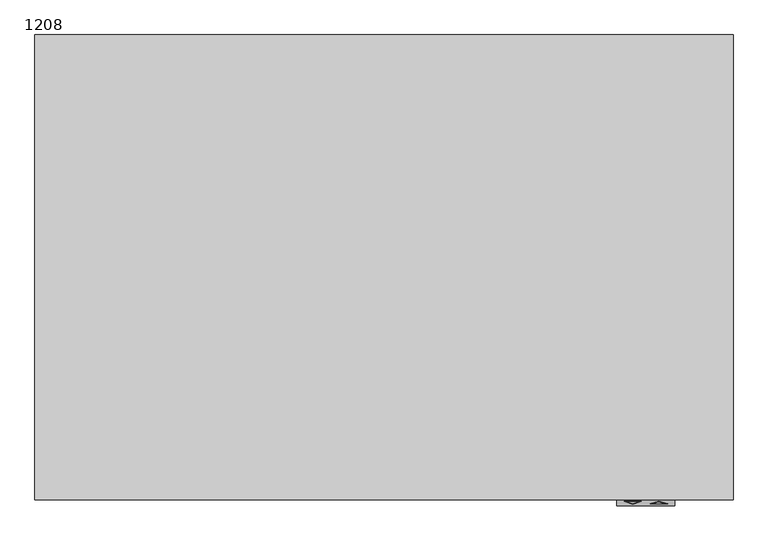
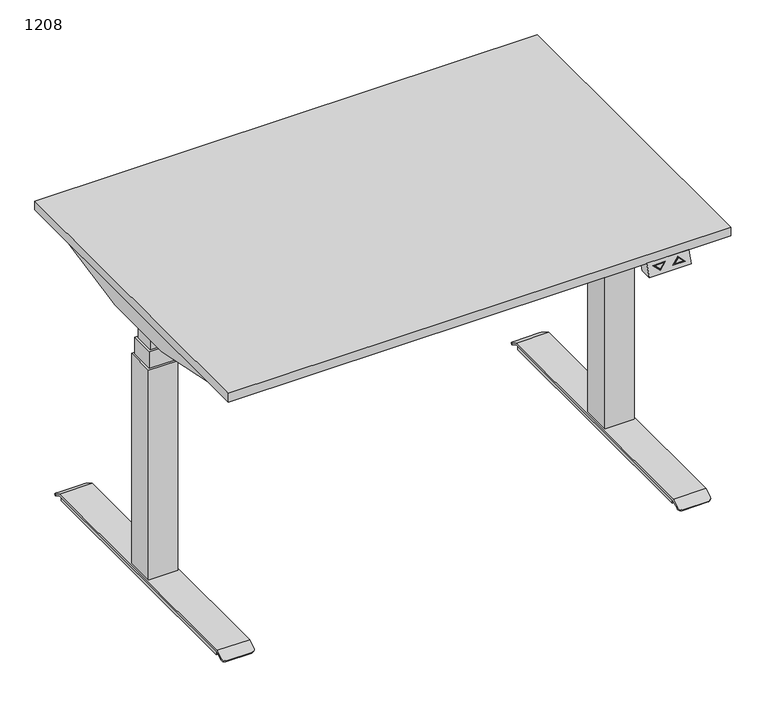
"""IFC4 building model written with IfcOpenShell, lengths in millimetres: furniture geometry, PINTA EQC : 1208."""

import ifcopenshell
import ifcopenshell.guid

model = None  # the IFC model being written
_history = None  # IfcOwnerHistory: only IFC2X3 demands one
_inside = {}  # id of a spatial element -> (the spatial element, [elements in it])
_under = {}  # id of a project, library or spatial element -> (it, [spatial elements below it])
_declared = {}  # id of a project -> (the project, [libraries it declares])
_typed = {}  # id of a type object -> (the type object, [elements of that type])
_made_of = {}  # id of a material, layer set ... -> (it, [elements and type objects made of it])


def new_model(schema):
    """Start an empty IFC model of exactly this schema.

    Asked for "IFC4X3", IfcOpenShell would pick the latest addendum, in which some entities
    have other attributes; the version numbers below select the first issue.
    IFC2X3 requires an IfcOwnerHistory on every rooted entity: one is made here for all.
    """
    global model, _history
    if schema == "IFC4X3":
        model = ifcopenshell.file(schema_version=(4, 3, 0, 0))
    else:
        model = ifcopenshell.file(schema=schema)
    _inside.clear()
    _under.clear()
    _declared.clear()
    _typed.clear()
    _made_of.clear()
    _history = None
    if model.schema == "IFC2X3":
        org = make("IfcOrganization", Name="unknown")
        user = make(
            "IfcPersonAndOrganization",
            ThePerson=make("IfcPerson", FamilyName="unknown"),
            TheOrganization=org,
        )
        app = make(
            "IfcApplication",
            ApplicationDeveloper=org,
            Version="unknown",
            ApplicationFullName="unknown",
            ApplicationIdentifier="unknown",
        )
        _history = make(
            "IfcOwnerHistory",
            OwningUser=user,
            OwningApplication=app,
            ChangeAction="ADDED",
            CreationDate=0,
        )
    return model


def make(cls, **values):
    """One entity of the class cls with the attributes given. An attribute that is None is left unset."""
    return model.create_entity(
        cls, **{name: value for name, value in values.items() if value is not None}
    )


def rooted(cls, **values):
    """An entity with a GlobalId (a new one), such as an element, a storey or a relation."""
    return make(cls, GlobalId=ifcopenshell.guid.new(), OwnerHistory=_history, **values)


def si_unit(unit_type, name, prefix=None):
    """IfcSIUnit, for example si_unit("LENGTHUNIT", "METRE", prefix="MILLI")."""
    return make("IfcSIUnit", UnitType=unit_type, Prefix=prefix, Name=name)


def assignment(units):
    """IfcUnitAssignment: the units of a project."""
    return None if units is None else make("IfcUnitAssignment", Units=units)


def point(xyz):
    """IfcCartesianPoint."""
    return None if xyz is None else make("IfcCartesianPoint", Coordinates=xyz)


def direction(xyz):
    """IfcDirection."""
    return None if xyz is None else make("IfcDirection", DirectionRatios=xyz)


def frame(location, z_axis=None, x_axis=None):
    """IfcAxis2Placement3D, a coordinate frame: its origin and axes. An axis left out is left unset."""
    return make(
        "IfcAxis2Placement3D",
        Location=point(location),
        Axis=direction(z_axis),
        RefDirection=direction(x_axis),
    )


def frame_2d(location, x_axis=None):
    """IfcAxis2Placement2D, a coordinate frame in the plane: its origin and x axis."""
    return make(
        "IfcAxis2Placement2D", Location=point(location), RefDirection=direction(x_axis)
    )


def origin():
    """The frame at (0, 0, 0) with its axes left unset."""
    return frame((0.0, 0.0, 0.0))


def origin_with_axes():
    """The frame at (0, 0, 0) with the z axis (0, 0, 1) and the x axis (1, 0, 0) written out."""
    return frame((0.0, 0.0, 0.0), z_axis=(0.0, 0.0, 1.0), x_axis=(1.0, 0.0, 0.0))


def place(relative_to, where):
    """IfcLocalPlacement: puts the frame where relative to a parent placement (None: the world)."""
    return make(
        "IfcLocalPlacement", PlacementRelTo=relative_to, RelativePlacement=where
    )


def context(
    kind, dimensions, precision=None, world=None, true_north=None, identifier=None
):
    """IfcGeometricRepresentationContext, for example the 3D "Model" context."""
    return make(
        "IfcGeometricRepresentationContext",
        ContextIdentifier=identifier,
        ContextType=kind,
        CoordinateSpaceDimension=dimensions,
        Precision=precision,
        WorldCoordinateSystem=world,
        TrueNorth=true_north,
    )


def project(units=None, contexts=None):
    """IfcProject with its units and contexts."""
    return rooted(
        "IfcProject",
        Name="project",
        RepresentationContexts=contexts,
        UnitsInContext=assignment(units),
    )


def spatial(cls, under=None, at=None, **own):
    """A site, building, storey or space (cls), placed at a placement, below another one or the project."""
    s = rooted(cls, ObjectPlacement=at, **own)
    if under is not None:
        _under.setdefault(under.id(), (under, []))[1].append(s)
    return s


def polyline(points):
    """IfcPolyline through the points."""
    return make("IfcPolyline", Points=[point(p) for p in points])


def circle_curve(where, radius):
    """IfcCircle in the frame where."""
    return make("IfcCircle", Position=where, Radius=radius)


def trimmed(basis, trim1, trim2, sense, master):
    """IfcTrimmedCurve: the piece of a basis curve between two trims."""
    return make(
        "IfcTrimmedCurve",
        BasisCurve=basis,
        Trim1=trim1,
        Trim2=trim2,
        SenseAgreement=sense,
        MasterRepresentation=master,
    )


def segment(curve, same_sense, transition):
    """IfcCompositeCurveSegment."""
    return make(
        "IfcCompositeCurveSegment",
        Transition=transition,
        SameSense=same_sense,
        ParentCurve=curve,
    )


def composite_curve(segments, self_intersect=None):
    """IfcCompositeCurve: segments joined end to end."""
    return make("IfcCompositeCurve", Segments=segments, SelfIntersect=self_intersect)


def outline(outer, holes=None, kind="AREA"):
    """IfcArbitraryClosedProfileDef: a profile drawn as a closed curve; with holes, ...WithVoids."""
    if holes is None:
        return make("IfcArbitraryClosedProfileDef", ProfileType=kind, OuterCurve=outer)
    return make(
        "IfcArbitraryProfileDefWithVoids",
        ProfileType=kind,
        OuterCurve=outer,
        InnerCurves=holes,
    )


def extrude(swept, where, along, depth):
    """IfcExtrudedAreaSolid: the profile swept, set in the frame where, extruded along a direction by depth."""
    return make(
        "IfcExtrudedAreaSolid",
        SweptArea=swept,
        Position=where,
        ExtrudedDirection=direction(along),
        Depth=depth,
    )


def faces_of(points, faces, orient=None, outer=None):
    """IfcFace entities. A face is a list of loops; a loop is a list of indices into points, from 0.

    orient and outer hold one flag for each loop. By default every Orientation is true, the
    first loop of a face is its IfcFaceOuterBound and the others are IfcFaceBound.
    """
    made = []
    for i, loops in enumerate(faces):
        bounds = []
        for j, loop in enumerate(loops):
            is_outer = j == 0 if outer is None else outer[i][j]
            bounds.append(
                make(
                    "IfcFaceOuterBound" if is_outer else "IfcFaceBound",
                    Bound=make("IfcPolyLoop", Polygon=[points[k] for k in loop]),
                    Orientation=True if orient is None else orient[i][j],
                )
            )
        made.append(make("IfcFace", Bounds=bounds))
    return made


def faceted_brep(points, faces, orient=None, outer=None, voids=None):
    """IfcFacetedBrep: a solid bounded by flat faces; with voids (closed shells), ...WithVoids."""
    shared = [point(p) for p in points]
    hull = make("IfcClosedShell", CfsFaces=faces_of(shared, faces, orient, outer))
    if voids is None:
        return make("IfcFacetedBrep", Outer=hull)
    return make(
        "IfcFacetedBrepWithVoids",
        Outer=hull,
        Voids=[
            make(cls, CfsFaces=faces_of(shared, fs, o, b)) for cls, fs, o, b in voids
        ],
    )


def shape(context_of_items, identifier, shape_type, items):
    """IfcShapeRepresentation: the items that make up one representation, for example the "Body"."""
    return make(
        "IfcShapeRepresentation",
        ContextOfItems=context_of_items,
        RepresentationIdentifier=identifier,
        RepresentationType=shape_type,
        Items=items,
    )


def source(mapping_origin, context_of_items, identifier, shape_type, items):
    """IfcRepresentationMap: a shape defined once, which mapped items show again and again."""
    return make(
        "IfcRepresentationMap",
        MappingOrigin=mapping_origin,
        MappedRepresentation=shape(context_of_items, identifier, shape_type, items),
    )


def transform(
    local_origin,
    x_axis=None,
    y_axis=None,
    z_axis=None,
    scale=None,
    scale2=None,
    scale3=None,
    uniform=True,
):
    """IfcCartesianTransformationOperator3D, or its non-uniform kind. x_axis, y_axis, z_axis: its Axis1, 2, 3."""
    if uniform:
        return make(
            "IfcCartesianTransformationOperator3D",
            Axis1=direction(x_axis),
            Axis2=direction(y_axis),
            LocalOrigin=point(local_origin),
            Scale=scale,
            Axis3=direction(z_axis),
        )
    return make(
        "IfcCartesianTransformationOperator3DnonUniform",
        Axis1=direction(x_axis),
        Axis2=direction(y_axis),
        LocalOrigin=point(local_origin),
        Scale=scale,
        Axis3=direction(z_axis),
        Scale2=scale2,
        Scale3=scale3,
    )


def mapped(mapping_source, mapping_target):
    """IfcMappedItem: shows the shape of a source again, moved by a transform."""
    return make(
        "IfcMappedItem", MappingSource=mapping_source, MappingTarget=mapping_target
    )


def made_of(thing, what):
    """Note that an element or type object is made of a material, layer set ...; save() writes the relation."""
    if what is not None:
        _made_of.setdefault(what.id(), (what, []))[1].append(thing)
    return thing


def element(
    cls,
    number,
    at=None,
    inside=None,
    cuts=None,
    type_object=None,
    material=None,
    context=None,
    identifier="Body",
    shape_type=None,
    held_by="IfcProductDefinitionShape",
    body=None,
    shapes=None,
    **own,
):
    """One element of the class cls, such as IfcWall. Its Tag is "e" and its number.

    at: its placement. inside: the storey or other place that contains it. cuts: it is an
    opening in that element (IfcRelVoidsElement). A single representation is given by context,
    identifier, shape_type and body (its items); several are given by shapes. held_by: the class
    of the entity that holds the representations. save() writes the other relations.
    """
    e = rooted(cls, Tag="e%d" % number, ObjectPlacement=at, **own)
    if body is not None:
        shapes = [shape(context, identifier, shape_type, body)]
    if shapes is not None:
        e.Representation = make(held_by, Representations=shapes)
    if inside is not None:
        _inside.setdefault(inside.id(), (inside, []))[1].append(e)
    if cuts is not None:
        rooted(
            "IfcRelVoidsElement", RelatingBuildingElement=cuts, RelatedOpeningElement=e
        )
    if type_object is not None:
        _typed.setdefault(type_object.id(), (type_object, []))[1].append(e)
    return made_of(e, material)


def aggregate(whole, parts):
    """IfcRelAggregates: a whole, such as a stair, and the parts it consists of."""
    return rooted("IfcRelAggregates", RelatingObject=whole, RelatedObjects=parts)


def save(model, path):
    """Write the relations noted so far, then the file.

    IfcRelAggregates (storeys below a building ...), IfcRelContainedInSpatialStructure (elements
    in a storey), IfcRelDefinesByType, IfcRelAssociatesMaterial and IfcRelDeclares: one each for
    every whole, place, type object, material and project.
    """
    for whole, parts in _under.values():
        aggregate(whole, parts)
    for where, things in _inside.values():
        rooted(
            "IfcRelContainedInSpatialStructure",
            RelatedElements=things,
            RelatingStructure=where,
        )
    for kind, things in _typed.values():
        rooted("IfcRelDefinesByType", RelatedObjects=things, RelatingType=kind)
    for what, things in _made_of.values():
        rooted("IfcRelAssociatesMaterial", RelatedObjects=things, RelatingMaterial=what)
    for by, libraries in _declared.values():
        rooted("IfcRelDeclares", RelatingContext=by, RelatedDefinitions=libraries)
    model.write(path)


def plane_surface(at):
    """IfcPlane: the flat surface through the origin of the frame at, square to its z axis."""
    return make("IfcPlane", Position=at)


def cylinder_surface(at, radius):
    """IfcCylindricalSurface: all points at the distance radius from the z axis of the frame at."""
    return make("IfcCylindricalSurface", Position=at, Radius=radius)


def advanced_brep(points, edges, surfaces, faces):
    """IfcAdvancedBrep: a solid bounded by faces that lie on surfaces and meet in shared edges.

    An edge is (start, end): straight between two places in points (the first is 0);
    or (start, end, curve); or (start, end, curve, False) where it runs against its curve.
    A face is (place in surfaces, loops), or (place, loops, False) where it looks against
    its surface's normal. A loop lists edges by number (the first is 1), with a minus sign
    where the edge is run from its end to its start. The first loop is the outer one.
    """
    corners = [point(p) for p in points]
    vertices = [make("IfcVertexPoint", VertexGeometry=c) for c in corners]
    made = []
    for start, end, *more in edges:
        made.append(
            make(
                "IfcEdgeCurve",
                EdgeStart=vertices[start],
                EdgeEnd=vertices[end],
                EdgeGeometry=more[0] if more else make("IfcPolyline", Points=[corners[start], corners[end]]),
                SameSense=more[1] if len(more) > 1 else True,
            )
        )
    hull = []
    for where, loops, *sense in faces:
        bounds = []
        for j, loop in enumerate(loops):
            ring = [make("IfcOrientedEdge", EdgeElement=made[abs(k) - 1], Orientation=k > 0) for k in loop]
            bounds.append(
                make(
                    "IfcFaceOuterBound" if j == 0 else "IfcFaceBound",
                    Bound=make("IfcEdgeLoop", EdgeList=ring),
                    Orientation=True,
                )
            )
        hull.append(make("IfcAdvancedFace", Bounds=bounds, FaceSurface=surfaces[where], SameSense=sense[0] if sense else True))
    return make("IfcAdvancedBrep", Outer=make("IfcClosedShell", CfsFaces=hull))


def furniture_1208_21994134(model_context):
    return source(origin(), model_context, "Body", "SolidModel", [
        faceted_brep([(400.0, -810.0, 668.0), (400.0, -780.0, 668.0), (500.0, -780.0, 668.0), (500.0, -810.0, 668.0), (400.0, -800.0, 698.0), (500.0, -800.0, 698.0), (500.0, -770.0, 698.0), (400.0, -770.0, 698.0), (412.5, -802.6491106, 690.0526681), (442.5, -802.6491106, 690.0526681), (427.5, -807.3925271, 675.8224186), (487.5, -806.9174824, 677.2475529), (457.5, -806.9174824, 677.2475529), (472.5, -802.1740659, 691.4778023), (427.5, -806.4980999, 678.5057002), (437.6715729, -803.2815662, 688.1553015), (417.3284271, -803.2815662, 688.1553015), (482.6715729, -806.2850268, 679.1449195), (472.5, -803.0684931, 688.7945208), (462.3284271, -806.2850268, 679.1449195), (442.5, -801.7004273, 689.7364403), (412.5, -801.7004273, 689.7364403), (427.5, -806.4438438, 675.5061908), (437.6715729, -802.3328829, 687.8390737), (427.5, -805.5494166, 678.1894724), (417.3284271, -802.3328829, 687.8390737), (457.5, -805.9687991, 676.9313251), (487.5, -805.9687991, 676.9313251), (472.5, -801.2253826, 691.1615746), (472.5, -802.1198098, 688.478293), (482.6715729, -805.3363436, 678.8286917), (462.3284271, -805.3363436, 678.8286917)], [[[0, 1, 2, 3]], [[4, 5, 6, 7]], [[1, 0, 4, 7]], [[3, 2, 6, 5]], [[0, 3, 5, 4], [8, 9, 10], [11, 12, 13]], [[14, 15, 16]], [[17, 18, 19]], [[2, 1, 7, 6]], [[20, 21, 22], [23, 24, 25]], [[26, 27, 28], [29, 30, 31]], [[21, 20, 9, 8]], [[22, 21, 8, 10]], [[20, 22, 10, 9]], [[27, 26, 12, 11]], [[28, 27, 11, 13]], [[26, 28, 13, 12]], [[24, 23, 15, 14]], [[25, 24, 14, 16]], [[23, 25, 16, 15]], [[30, 29, 18, 17]], [[31, 30, 17, 19]], [[29, 31, 19, 18]]]),
        extrude(outline(polyline([(-580.0, -319.7732113), (580.0, -319.7733158), (580.0, -339.7733158), (-580.0, -339.7732113), (-580.0, -319.7732113)])), frame((0.0, 0.0, 658.0), z_axis=(0.0, 0.0, 1.0), x_axis=(1.0, 0.0, 0.0)), (0.0, 0.0, 1.0), 40.0),
        extrude(outline(polyline([(-580.0, -459.7732114), (580.0, -459.7733158), (580.0, -479.7733158), (-580.0, -479.7732114), (-580.0, -459.7732114)])), frame((0.0, 0.0, 658.0), z_axis=(0.0, 0.0, 1.0), x_axis=(1.0, 0.0, 0.0)), (0.0, 0.0, 1.0), 40.0),
        extrude(outline(polyline([(-600.0, -800.0), (-600.0, 0.0), (600.0, 0.0), (600.0, -800.0), (-600.0, -800.0)])), frame((0.0, 0.0, 698.0), z_axis=(0.0, 0.0, 1.0), x_axis=(1.0, 0.0, 0.0)), (0.0, 0.0, 1.0), 22.0),
        advanced_brep(
        [(506.9772339, -720.0, 6.0), (506.9772339, -720.0, 16.0), (506.9772339, -80.0, 16.0), (506.9772339, -80.0, 6.0), (583.0227661, -80.0, 16.0), (583.0227661, -80.0, 6.0), (583.0227661, -720.0, 16.0), (583.0227661, -720.0, 6.0), (506.0, -75.0, 20.0), (506.0, -56.9800481, 9.908827), (506.0, -58.9344616, 6.4188029), (506.0, -76.0437422, 16.0), (506.0, -723.9562578, 16.0), (506.0, -741.0655384, 6.4188029), (506.0, -743.0199519, 9.908827), (506.0, -725.0, 20.0), (584.0, -76.0437422, 16.0), (584.0, -58.9344616, 6.4188029), (584.0, -56.9800481, 9.908827), (584.0, -75.0, 20.0), (584.0, -725.0, 20.0), (584.0, -743.0199519, 9.908827), (584.0, -741.0655384, 6.4188029), (584.0, -723.9562578, 16.0), (514.0, -750.0, 6.0), (576.0, -750.0, 6.0), (514.0, -748.0455865, 2.5099759), (576.0, -748.0455865, 2.5099759), (514.0, -51.9544135, 2.5099759), (576.0, -51.9544135, 2.5099759), (514.0, -50.0, 6.0), (576.0, -50.0, 6.0)],
        [
            (0, 1),
            (1, 2),
            (2, 3),
            (3, 0),
            (2, 4),
            (4, 5),
            (5, 3),
            (4, 6),
            (6, 7),
            (7, 5),
            (6, 1),
            (0, 7),
            (8, 9),
            (9, 10),
            (10, 11),
            (11, 12),
            (12, 13),
            (13, 14),
            (14, 15),
            (15, 8),
            (16, 17),
            (17, 18),
            (18, 19),
            (19, 20),
            (20, 21),
            (21, 22),
            (22, 23),
            (23, 16),
            (15, 20),
            (19, 8),
            (11, 16),
            (23, 12),
            (14, 24, circle_curve(frame((514.0, -743.0199519, 9.908827), z_axis=(0.0, -0.4886033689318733, 0.8725060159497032), x_axis=(0.0, 0.8725060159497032, 0.4886033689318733)), 8.0)),
            (24, 25),
            (25, 21, circle_curve(frame((576.0, -743.0199519, 9.908827), z_axis=(0.0, -0.4886033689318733, 0.8725060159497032), x_axis=(0.0, 0.8725060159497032, 0.4886033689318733)), 8.0)),
            (24, 26),
            (26, 27),
            (27, 25),
            (22, 27, circle_curve(frame((576.0, -741.0655384, 6.4188029), z_axis=(0.0, 0.4886033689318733, -0.8725060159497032), x_axis=(0.0, 0.8725060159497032, 0.4886033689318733)), 8.0)),
            (26, 13, circle_curve(frame((514.0, -741.0655384, 6.4188029), z_axis=(0.0, 0.4886033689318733, -0.8725060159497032), x_axis=(0.0, 0.8725060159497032, 0.4886033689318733)), 8.0)),
            (10, 28, circle_curve(frame((514.0, -58.9344616, 6.4188029), z_axis=(0.0, -0.4886033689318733, -0.8725060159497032), x_axis=(0.0, -0.8725060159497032, 0.4886033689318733)), 8.0)),
            (28, 29),
            (29, 17, circle_curve(frame((576.0, -58.9344616, 6.4188029), z_axis=(0.0, -0.4886033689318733, -0.8725060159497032), x_axis=(0.0, -0.8725060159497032, 0.4886033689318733)), 8.0)),
            (28, 30),
            (30, 31),
            (31, 29),
            (18, 31, circle_curve(frame((576.0, -56.9800481, 9.908827), z_axis=(0.0, 0.4886033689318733, 0.8725060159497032), x_axis=(0.0, -0.8725060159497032, 0.4886033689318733)), 8.0)),
            (30, 9, circle_curve(frame((514.0, -56.9800481, 9.908827), z_axis=(0.0, 0.4886033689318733, 0.8725060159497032), x_axis=(0.0, -0.8725060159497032, 0.4886033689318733)), 8.0)),
        ],
        [
            plane_surface(frame((506.9772339, -720.0, 16.0), z_axis=(-1.0, 0.0, 0.0), x_axis=(0.0, 0.0, -1.0))),
            plane_surface(frame((506.9772339, -80.0, 16.0), z_axis=(0.0, 1.0, 0.0), x_axis=(0.0, 0.0, -1.0))),
            plane_surface(frame((583.0227661, -80.0, 16.0), z_axis=(1.0, 0.0, 0.0), x_axis=(0.0, 0.0, -1.0))),
            plane_surface(frame((583.0227661, -720.0, 16.0), z_axis=(0.0, -1.0, 0.0), x_axis=(0.0, 0.0, -1.0))),
            plane_surface(frame((506.9772339, -723.4188232, 6.0), z_axis=(0.0, 0.0, -1.0), x_axis=(0.0, -1.0, 0.0))),
            plane_surface(frame((506.0, -400.0, 20.0), z_axis=(-1.0, 0.0, 0.0), x_axis=(0.0, -1.0, 0.0))),
            plane_surface(frame((584.0, -400.0, 20.0), z_axis=(1.0, 0.0, 0.0), x_axis=(0.0, 1.0, 0.0))),
            plane_surface(frame((506.0, -75.0, 20.0), z_axis=(0.0, 0.0, 1.0), x_axis=(1.0, 0.0, 0.0))),
            plane_surface(frame((506.0, -723.9562578, 16.0), z_axis=(0.0, 0.0, -1.0), x_axis=(1.0, 0.0, 0.0))),
            plane_surface(frame((506.0, -725.0, 20.0), z_axis=(0.0, -0.4886033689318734, 0.8725060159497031), x_axis=(1.0, 0.0, 0.0))),
            plane_surface(frame((506.0, -750.0, 6.0), z_axis=(0.0, -0.872506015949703, -0.4886033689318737), x_axis=(1.0, 0.0, 0.0))),
            plane_surface(frame((506.0, -748.0455865, 2.5099759), z_axis=(0.0, 0.4886033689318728, -0.8725060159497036), x_axis=(1.0, 0.0, 0.0))),
            plane_surface(frame((506.0, -76.0437422, 16.0), z_axis=(0.0, -0.4886033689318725, -0.8725060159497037), x_axis=(1.0, 0.0, 0.0))),
            plane_surface(frame((506.0, -51.9544135, 2.5099759), z_axis=(0.0, 0.8725060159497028, -0.48860336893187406), x_axis=(1.0, 0.0, 0.0))),
            plane_surface(frame((506.0, -50.0, 6.0), z_axis=(0.0, 0.48860336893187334, 0.8725060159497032), x_axis=(1.0, 0.0, 0.0))),
            cylinder_surface(frame((514.0, -743.0199519, 9.908827), z_axis=(0.0, -0.4886033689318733, 0.8725060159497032), x_axis=(0.0, 0.8725060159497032, 0.4886033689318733)), 8.0),
            cylinder_surface(frame((576.0, -743.0199519, 9.908827), z_axis=(0.0, -0.4886033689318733, 0.8725060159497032), x_axis=(0.0, 0.8725060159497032, 0.4886033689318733)), 8.0),
            cylinder_surface(frame((514.0, -56.9800481, 9.908827), z_axis=(0.0, 0.4886033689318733, 0.8725060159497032), x_axis=(0.0, -0.8725060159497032, 0.4886033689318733)), 8.0),
            cylinder_surface(frame((576.0, -56.9800481, 9.908827), z_axis=(0.0, 0.4886033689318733, 0.8725060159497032), x_axis=(0.0, -0.8725060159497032, 0.4886033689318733)), 8.0),
        ],
        [
            (0, [[1, 2, 3, 4]]),
            (1, [[-3, 5, 6, 7]]),
            (2, [[-6, 8, 9, 10]]),
            (3, [[-9, 11, -1, 12]]),
            (4, [[-4, -7, -10, -12]]),
            (5, [[13, 14, 15, 16, 17, 18, 19, 20]]),
            (6, [[21, 22, 23, 24, 25, 26, 27, 28]]),
            (7, [[29, -24, 30, -20]]),
            (8, [[31, -28, 32, -16], [-11, -8, -5, -2]]),
            (9, [[-19, 33, 34, 35, -25, -29]]),
            (10, [[36, 37, 38, -34]]),
            (11, [[-27, 39, -37, 40, -17, -32]]),
            (12, [[-15, 41, 42, 43, -21, -31]]),
            (13, [[44, 45, 46, -42]]),
            (14, [[-23, 47, -45, 48, -13, -30]]),
            (15, [[-40, -36, -33, -18]]),
            (16, [[-35, -38, -39, -26]]),
            (17, [[-48, -44, -41, -14]]),
            (18, [[-43, -46, -47, -22]]),
        ],
    ),
        faceted_brep([(379.4551307, -460.0, 698.0), (562.9996948, -460.0, 698.0), (562.9996948, -700.0, 698.0), (579.4551307, -700.0, 698.0), (583.0, -700.0, 698.0), (583.0, -100.0, 698.0), (579.4551307, -100.0, 698.0), (562.9996948, -100.0, 698.0), (562.9996948, -340.0, 698.0), (379.4551307, -340.0, 698.0), (379.4551307, -460.0, 635.2327881), (379.4551307, -340.0, 635.2327881), (579.4551307, -340.0, 635.2327881), (579.4551307, -303.8252348, 635.2327881), (583.0, -303.8252348, 635.2327881), (583.0, -496.1747652, 635.2327881), (579.4551307, -496.1747652, 635.2327881), (579.4551307, -460.0, 635.2327881), (562.9996948, -340.0, 694.9093018), (579.4551307, -340.0, 694.9093018), (579.4551307, -460.0, 694.9093018), (562.9996948, -460.0, 694.9093018), (579.4551307, -700.0, 694.9093018), (562.9996948, -700.0, 694.9093018), (579.4551307, -100.0, 694.9093018), (562.9996948, -100.0, 694.9093018), (579.4551307, -101.1249222, 694.9093018), (579.4551307, -698.8750778, 694.9093018), (579.4551307, -108.5505036, 674.5076845), (579.4551307, -691.4494964, 674.5076845), (583.0, -108.5505036, 674.5076845), (583.0, -691.4494964, 674.5076845)], [[[0, 1, 2, 3, 4, 5, 6, 7, 8, 9]], [[10, 11, 12, 13, 14, 15, 16, 17]], [[9, 11, 10, 0]], [[11, 9, 8, 18, 19, 12]], [[17, 20, 21, 1, 0, 10]], [[22, 3, 2, 23]], [[24, 25, 7, 6]], [[24, 26, 19, 18, 25]], [[23, 21, 20, 27, 22]], [[2, 1, 21, 23]], [[25, 18, 8, 7]], [[13, 12, 19, 26, 28]], [[29, 27, 20, 17, 16]], [[15, 14, 30, 5, 4, 31]], [[16, 15, 31, 29]], [[22, 27, 3]], [[6, 26, 24]], [[4, 3, 27, 29, 31]], [[28, 30, 14, 13]], [[30, 28, 26, 6, 5]]]),
        extrude(outline(composite_curve([segment(trimmed(circle_curve(frame_2d((545.0, -705.0)), 25.0), [point((570.0, -705.0))], [point((520.0, -705.0))], False, "CARTESIAN"), True, "CONTINUOUS"), segment(trimmed(circle_curve(frame_2d((545.0, -705.0)), 25.0), [point((520.0, -705.0))], [point((570.0, -705.0))], False, "CARTESIAN"), True, "CONTINUOUS")], self_intersect=False)), origin_with_axes(), (0.0, 0.0, 1.0), 6.0),
        extrude(outline(composite_curve([segment(trimmed(circle_curve(frame_2d((545.0, -95.0)), 25.0), [point((570.0, -95.0))], [point((520.0, -95.0))], False, "CARTESIAN"), True, "CONTINUOUS"), segment(trimmed(circle_curve(frame_2d((545.0, -95.0)), 25.0), [point((520.0, -95.0))], [point((570.0, -95.0))], False, "CARTESIAN"), True, "CONTINUOUS")], self_intersect=False)), origin_with_axes(), (0.0, 0.0, 1.0), 6.0),
        faceted_brep([(510.0, -365.0, 550.0), (510.0, -434.9621325, 550.0), (580.0, -434.9621325, 550.0), (580.0, -365.0, 550.0), (575.0, -370.0, 550.0), (575.0, -429.9621325, 550.0), (515.0, -429.9621325, 550.0), (515.0, -370.0, 550.0), (510.0, -365.0, 20.0), (580.0, -365.0, 20.0), (580.0, -434.9621325, 20.0), (510.0, -434.9621325, 20.0), (515.0, -370.0, 592.616394), (515.0, -429.9621325, 592.616394), (575.0, -429.9621325, 592.616394), (575.0, -370.0, 592.616394), (570.0, -375.0, 592.616394), (570.0, -424.9621325, 592.616394), (520.0, -424.9621325, 592.616394), (520.0, -375.0, 592.616394), (520.0, -375.0, 635.2327881), (520.0, -424.9621325, 635.2327881), (570.0, -424.9621325, 635.2327881), (570.0, -375.0, 635.2327881)], [[[0, 1, 2, 3], [4, 5, 6, 7]], [[8, 9, 10, 11]], [[3, 9, 8, 0]], [[2, 10, 9, 3]], [[1, 11, 10, 2]], [[0, 8, 11, 1]], [[12, 13, 14, 15], [16, 17, 18, 19]], [[15, 4, 7, 12]], [[14, 5, 4, 15]], [[13, 6, 5, 14]], [[12, 7, 6, 13]], [[20, 21, 22, 23]], [[23, 16, 19, 20]], [[22, 17, 16, 23]], [[21, 18, 17, 22]], [[20, 19, 18, 21]]]),
        advanced_brep(
        [(-506.9772339, -720.0, 6.0), (-506.9772339, -80.0, 6.0), (-506.9772339, -80.0, 16.0), (-506.9772339, -720.0, 16.0), (-583.0227661, -80.0, 6.0), (-583.0227661, -80.0, 16.0), (-583.0227661, -720.0, 6.0), (-583.0227661, -720.0, 16.0), (-506.0, -75.0, 20.0), (-506.0, -725.0, 20.0), (-506.0, -743.0199519, 9.908827), (-506.0, -741.0655384, 6.4188029), (-506.0, -723.9562578, 16.0), (-506.0, -76.0437422, 16.0), (-506.0, -58.9344616, 6.4188029), (-506.0, -56.9800481, 9.908827), (-584.0, -76.0437422, 16.0), (-584.0, -723.9562578, 16.0), (-584.0, -741.0655384, 6.4188029), (-584.0, -743.0199519, 9.908827), (-584.0, -725.0, 20.0), (-584.0, -75.0, 20.0), (-584.0, -56.9800481, 9.908827), (-584.0, -58.9344616, 6.4188029), (-576.0, -750.0, 6.0), (-514.0, -750.0, 6.0), (-576.0, -748.0455865, 2.5099759), (-514.0, -748.0455865, 2.5099759), (-576.0, -51.9544135, 2.5099759), (-514.0, -51.9544135, 2.5099759), (-576.0, -50.0, 6.0), (-514.0, -50.0, 6.0)],
        [
            (0, 1),
            (1, 2),
            (2, 3),
            (3, 0),
            (1, 4),
            (4, 5),
            (5, 2),
            (4, 6),
            (6, 7),
            (7, 5),
            (6, 0),
            (3, 7),
            (8, 9),
            (9, 10),
            (10, 11),
            (11, 12),
            (12, 13),
            (13, 14),
            (14, 15),
            (15, 8),
            (16, 17),
            (17, 18),
            (18, 19),
            (19, 20),
            (20, 21),
            (21, 22),
            (22, 23),
            (23, 16),
            (8, 21),
            (20, 9),
            (12, 17),
            (16, 13),
            (19, 24, circle_curve(frame((-576.0, -743.0199519, 9.908827), z_axis=(0.0, -0.4886033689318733, 0.8725060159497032), x_axis=(0.0, 0.8725060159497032, 0.4886033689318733)), 8.0)),
            (24, 25),
            (25, 10, circle_curve(frame((-514.0, -743.0199519, 9.908827), z_axis=(0.0, -0.4886033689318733, 0.8725060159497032), x_axis=(0.0, 0.8725060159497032, 0.4886033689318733)), 8.0)),
            (24, 26),
            (26, 27),
            (27, 25),
            (11, 27, circle_curve(frame((-514.0, -741.0655384, 6.4188029), z_axis=(0.0, 0.4886033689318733, -0.8725060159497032), x_axis=(0.0, 0.8725060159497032, 0.4886033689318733)), 8.0)),
            (26, 18, circle_curve(frame((-576.0, -741.0655384, 6.4188029), z_axis=(0.0, 0.4886033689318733, -0.8725060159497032), x_axis=(0.0, 0.8725060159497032, 0.4886033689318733)), 8.0)),
            (23, 28, circle_curve(frame((-576.0, -58.9344616, 6.4188029), z_axis=(0.0, -0.4886033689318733, -0.8725060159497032), x_axis=(0.0, -0.8725060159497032, 0.4886033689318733)), 8.0)),
            (28, 29),
            (29, 14, circle_curve(frame((-514.0, -58.9344616, 6.4188029), z_axis=(0.0, -0.4886033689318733, -0.8725060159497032), x_axis=(0.0, -0.8725060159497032, 0.4886033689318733)), 8.0)),
            (28, 30),
            (30, 31),
            (31, 29),
            (15, 31, circle_curve(frame((-514.0, -56.9800481, 9.908827), z_axis=(0.0, 0.4886033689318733, 0.8725060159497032), x_axis=(0.0, -0.8725060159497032, 0.4886033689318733)), 8.0)),
            (30, 22, circle_curve(frame((-576.0, -56.9800481, 9.908827), z_axis=(0.0, 0.4886033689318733, 0.8725060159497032), x_axis=(0.0, -0.8725060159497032, 0.4886033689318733)), 8.0)),
        ],
        [
            plane_surface(frame((-506.9772339, -720.0, 16.0), z_axis=(1.0, 0.0, 0.0), x_axis=(0.0, 0.0, -1.0))),
            plane_surface(frame((-506.9772339, -80.0, 16.0), z_axis=(0.0, 1.0, 0.0), x_axis=(0.0, 0.0, -1.0))),
            plane_surface(frame((-583.0227661, -80.0, 16.0), z_axis=(-1.0, 0.0, 0.0), x_axis=(0.0, 0.0, -1.0))),
            plane_surface(frame((-583.0227661, -720.0, 16.0), z_axis=(0.0, -1.0, 0.0), x_axis=(0.0, 0.0, -1.0))),
            plane_surface(frame((-506.9772339, -723.4188232, 6.0), z_axis=(0.0, 0.0, -1.0), x_axis=(0.0, -1.0, 0.0))),
            plane_surface(frame((-506.0, -400.0, 20.0), z_axis=(1.0, 0.0, 0.0), x_axis=(0.0, -1.0, 0.0))),
            plane_surface(frame((-584.0, -400.0, 20.0), z_axis=(-1.0, 0.0, 0.0), x_axis=(0.0, 1.0, 0.0))),
            plane_surface(frame((-506.0, -75.0, 20.0), z_axis=(0.0, 0.0, 1.0), x_axis=(-1.0, 0.0, 0.0))),
            plane_surface(frame((-506.0, -723.9562578, 16.0), z_axis=(0.0, 0.0, -1.0), x_axis=(-1.0, 0.0, 0.0))),
            plane_surface(frame((-506.0, -725.0, 20.0), z_axis=(0.0, -0.4886033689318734, 0.8725060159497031), x_axis=(-1.0, 0.0, 0.0))),
            plane_surface(frame((-506.0, -750.0, 6.0), z_axis=(0.0, -0.872506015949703, -0.4886033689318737), x_axis=(-1.0, 0.0, 0.0))),
            plane_surface(frame((-506.0, -748.0455865, 2.5099759), z_axis=(0.0, 0.4886033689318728, -0.8725060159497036), x_axis=(-1.0, 0.0, 0.0))),
            plane_surface(frame((-506.0, -76.0437422, 16.0), z_axis=(0.0, -0.4886033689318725, -0.8725060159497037), x_axis=(-1.0, 0.0, 0.0))),
            plane_surface(frame((-506.0, -51.9544135, 2.5099759), z_axis=(0.0, 0.8725060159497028, -0.48860336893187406), x_axis=(-1.0, 0.0, 0.0))),
            plane_surface(frame((-506.0, -50.0, 6.0), z_axis=(0.0, 0.48860336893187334, 0.8725060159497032), x_axis=(-1.0, 0.0, 0.0))),
            cylinder_surface(frame((-514.0, -743.0199519, 9.908827), z_axis=(0.0, -0.4886033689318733, 0.8725060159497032), x_axis=(0.0, 0.8725060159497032, 0.4886033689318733)), 8.0),
            cylinder_surface(frame((-576.0, -743.0199519, 9.908827), z_axis=(0.0, -0.4886033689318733, 0.8725060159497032), x_axis=(0.0, 0.8725060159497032, 0.4886033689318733)), 8.0),
            cylinder_surface(frame((-514.0, -56.9800481, 9.908827), z_axis=(0.0, 0.4886033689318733, 0.8725060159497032), x_axis=(0.0, -0.8725060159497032, 0.4886033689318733)), 8.0),
            cylinder_surface(frame((-576.0, -56.9800481, 9.908827), z_axis=(0.0, 0.4886033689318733, 0.8725060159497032), x_axis=(0.0, -0.8725060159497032, 0.4886033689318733)), 8.0),
        ],
        [
            (0, [[1, 2, 3, 4]]),
            (1, [[5, 6, 7, -2]]),
            (2, [[8, 9, 10, -6]]),
            (3, [[11, -4, 12, -9]]),
            (4, [[-11, -8, -5, -1]]),
            (5, [[13, 14, 15, 16, 17, 18, 19, 20]]),
            (6, [[21, 22, 23, 24, 25, 26, 27, 28]]),
            (7, [[-13, 29, -25, 30]]),
            (8, [[-17, 31, -21, 32], [-3, -7, -10, -12]]),
            (9, [[-30, -24, 33, 34, 35, -14]]),
            (10, [[-34, 36, 37, 38]]),
            (11, [[-31, -16, 39, -37, 40, -22]]),
            (12, [[-32, -28, 41, 42, 43, -18]]),
            (13, [[-42, 44, 45, 46]]),
            (14, [[-29, -20, 47, -45, 48, -26]]),
            (15, [[-15, -35, -38, -39]]),
            (16, [[-23, -40, -36, -33]]),
            (17, [[-19, -43, -46, -47]]),
            (18, [[-27, -48, -44, -41]]),
        ],
    ),
        faceted_brep([(-379.4551307, -460.0, 698.0), (-379.4551307, -340.0, 698.0), (-562.9996948, -340.0, 698.0), (-562.9996948, -100.0, 698.0), (-579.4551307, -100.0, 698.0), (-583.0, -100.0, 698.0), (-583.0, -700.0, 698.0), (-579.4551307, -700.0, 698.0), (-562.9996948, -700.0, 698.0), (-562.9996948, -460.0, 698.0), (-379.4551307, -460.0, 635.2327881), (-579.4551307, -460.0, 635.2327881), (-579.4551307, -496.1747652, 635.2327881), (-583.0, -496.1747652, 635.2327881), (-583.0, -303.8252348, 635.2327881), (-579.4551307, -303.8252348, 635.2327881), (-579.4551307, -340.0, 635.2327881), (-379.4551307, -340.0, 635.2327881), (-579.4551307, -340.0, 694.9093018), (-562.9996948, -340.0, 694.9093018), (-562.9996948, -460.0, 694.9093018), (-579.4551307, -460.0, 694.9093018), (-579.4551307, -700.0, 694.9093018), (-562.9996948, -700.0, 694.9093018), (-579.4551307, -100.0, 694.9093018), (-562.9996948, -100.0, 694.9093018), (-579.4551307, -698.8750778, 694.9093018), (-579.4551307, -101.1249222, 694.9093018), (-579.4551307, -691.4494964, 674.5076845), (-579.4551307, -108.5505036, 674.5076845), (-583.0, -691.4494964, 674.5076845), (-583.0, -108.5505036, 674.5076845)], [[[0, 1, 2, 3, 4, 5, 6, 7, 8, 9]], [[10, 11, 12, 13, 14, 15, 16, 17]], [[1, 0, 10, 17]], [[17, 16, 18, 19, 2, 1]], [[11, 10, 0, 9, 20, 21]], [[22, 23, 8, 7]], [[24, 4, 3, 25]], [[23, 22, 26, 21, 20]], [[24, 25, 19, 18, 27]], [[8, 23, 20, 9]], [[25, 3, 2, 19]], [[28, 12, 11, 21, 26]], [[15, 29, 27, 18, 16]], [[13, 30, 6, 5, 31, 14]], [[12, 28, 30, 13]], [[22, 7, 26]], [[4, 24, 27]], [[6, 30, 28, 26, 7]], [[29, 15, 14, 31]], [[31, 5, 4, 27, 29]]]),
        extrude(outline(composite_curve([segment(trimmed(circle_curve(frame_2d((-545.0, -705.0)), 25.0), [point((-570.0, -705.0))], [point((-520.0, -705.0))], False, "CARTESIAN"), True, "CONTINUOUS"), segment(trimmed(circle_curve(frame_2d((-545.0, -705.0)), 25.0), [point((-520.0, -705.0))], [point((-570.0, -705.0))], False, "CARTESIAN"), True, "CONTINUOUS")], self_intersect=False)), origin_with_axes(), (0.0, 0.0, 1.0), 6.0),
        extrude(outline(composite_curve([segment(trimmed(circle_curve(frame_2d((-545.0, -95.0)), 25.0), [point((-570.0, -95.0))], [point((-520.0, -95.0))], False, "CARTESIAN"), True, "CONTINUOUS"), segment(trimmed(circle_curve(frame_2d((-545.0, -95.0)), 25.0), [point((-520.0, -95.0))], [point((-570.0, -95.0))], False, "CARTESIAN"), True, "CONTINUOUS")], self_intersect=False)), origin_with_axes(), (0.0, 0.0, 1.0), 6.0),
        faceted_brep([(-510.0, -365.0, 550.0), (-580.0, -365.0, 550.0), (-580.0, -434.9621325, 550.0), (-510.0, -434.9621325, 550.0), (-575.0, -370.0, 550.0), (-515.0, -370.0, 550.0), (-515.0, -429.9621325, 550.0), (-575.0, -429.9621325, 550.0), (-510.0, -365.0, 20.0), (-510.0, -434.9621325, 20.0), (-580.0, -434.9621325, 20.0), (-580.0, -365.0, 20.0), (-515.0, -370.0, 592.616394), (-575.0, -370.0, 592.616394), (-575.0, -429.9621325, 592.616394), (-515.0, -429.9621325, 592.616394), (-570.0, -375.0, 592.616394), (-520.0, -375.0, 592.616394), (-520.0, -424.9621325, 592.616394), (-570.0, -424.9621325, 592.616394), (-520.0, -375.0, 635.2327881), (-570.0, -375.0, 635.2327881), (-570.0, -424.9621325, 635.2327881), (-520.0, -424.9621325, 635.2327881)], [[[0, 1, 2, 3], [4, 5, 6, 7]], [[8, 9, 10, 11]], [[1, 0, 8, 11]], [[2, 1, 11, 10]], [[3, 2, 10, 9]], [[0, 3, 9, 8]], [[12, 13, 14, 15], [16, 17, 18, 19]], [[13, 12, 5, 4]], [[14, 13, 4, 7]], [[15, 14, 7, 6]], [[12, 15, 6, 5]], [[20, 21, 22, 23]], [[21, 20, 17, 16]], [[22, 21, 16, 19]], [[23, 22, 19, 18]], [[20, 23, 18, 17]]]),
    ])


if __name__ == "__main__":
    model = new_model("IFC4")
    model_context = context("Model", 3, world=origin())
    ifc_project = project(units=[si_unit("LENGTHUNIT", "METRE", prefix="MILLI")], contexts=[model_context])
    site = spatial("IfcSite", under=ifc_project)
    building = spatial("IfcBuilding", under=site)
    placement = place(None, origin())
    furniture_1208_shape = furniture_1208_21994134(model_context)
    element("IfcFurniture", 1, ObjectType="PINTA EQC : 1208", at=placement, inside=building, context=model_context, shape_type="MappedRepresentation", body=[
        mapped(furniture_1208_shape, transform((0.0, 0.0, 0.0), x_axis=(1.0, 0.0, 0.0), y_axis=(0.0, 1.0, 0.0), z_axis=(0.0, 0.0, 1.0))),
    ])
    save(model, "model.ifc")
